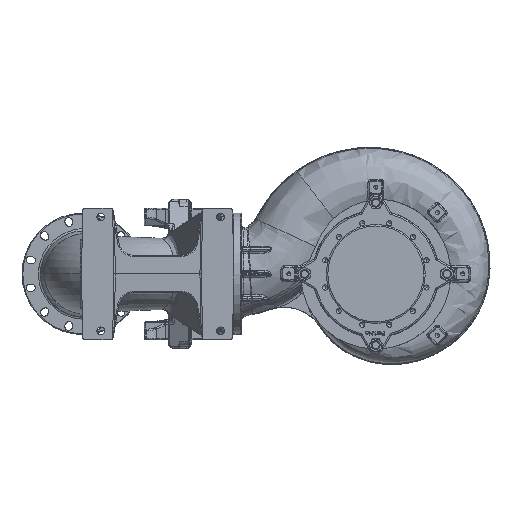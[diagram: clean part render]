
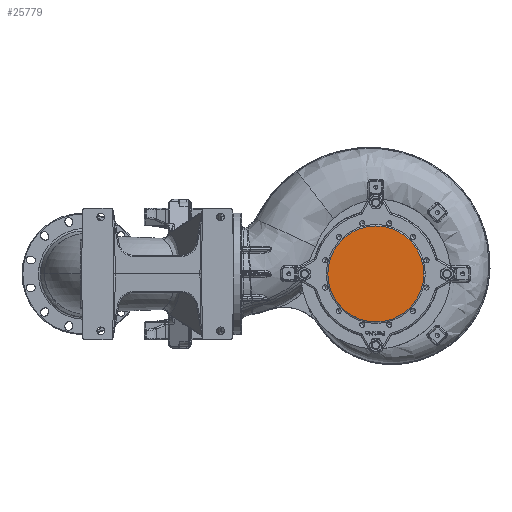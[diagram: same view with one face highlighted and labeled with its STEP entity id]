
A CAD part, front view. The second image highlights one B-rep face of the part: STEP entity #25779.
In plain terms, the highlighted planar face has unit normal (0, -1, 0).
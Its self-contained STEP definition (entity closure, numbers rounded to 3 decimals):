
#25779 = ADVANCED_FACE ( 'NONE', ( #173150 ), #354677, .T. ) ;
#33294 = CIRCLE ( 'NONE', #140572, 160. ) ;
#35318 = CIRCLE ( 'NONE', #185665, 160. ) ;
#55594 = EDGE_CURVE ( 'NONE', #306574, #212249, #33294, .T. ) ;
#82265 = DIRECTION ( 'NONE',  ( 0., 1., 0. ) ) ;
#99703 = CARTESIAN_POINT ( 'NONE',  ( 0., -554.5, -125. ) ) ;
#100236 = CARTESIAN_POINT ( 'NONE',  ( 0., -554.5, 0. ) ) ;
#117457 = CARTESIAN_POINT ( 'NONE',  ( -160., -554.5, 0. ) ) ;
#118830 = ORIENTED_EDGE ( 'NONE', *, *, #55594, .F. ) ;
#128385 = DIRECTION ( 'NONE',  ( -1., 0., 0. ) ) ;
#128910 = DIRECTION ( 'NONE',  ( 1., 0., 0. ) ) ;
#140572 = AXIS2_PLACEMENT_3D ( 'NONE', #100236, #299286, #128910 ) ;
#141895 = ORIENTED_EDGE ( 'NONE', *, *, #233864, .F. ) ;
#173150 = FACE_OUTER_BOUND ( 'NONE', #360249, .T. ) ;
#181091 = AXIS2_PLACEMENT_3D ( 'NONE', #99703, #298778, #128385 ) ;
#185665 = AXIS2_PLACEMENT_3D ( 'NONE', #252904, #82265, #281458 ) ;
#212249 = VERTEX_POINT ( 'NONE', #117457 ) ;
#233864 = EDGE_CURVE ( 'NONE', #212249, #306574, #35318, .T. ) ;
#252904 = CARTESIAN_POINT ( 'NONE',  ( 0., -554.5, 0. ) ) ;
#281458 = DIRECTION ( 'NONE',  ( 1., 0., 0. ) ) ;
#298778 = DIRECTION ( 'NONE',  ( 0., -1., 0. ) ) ;
#299286 = DIRECTION ( 'NONE',  ( 0., 1., 0. ) ) ;
#306574 = VERTEX_POINT ( 'NONE', #337943 ) ;
#337943 = CARTESIAN_POINT ( 'NONE',  ( 160., -554.5, 0. ) ) ;
#354677 = PLANE ( 'NONE',  #181091 ) ;
#360249 = EDGE_LOOP ( 'NONE', ( #141895, #118830 ) ) ;
